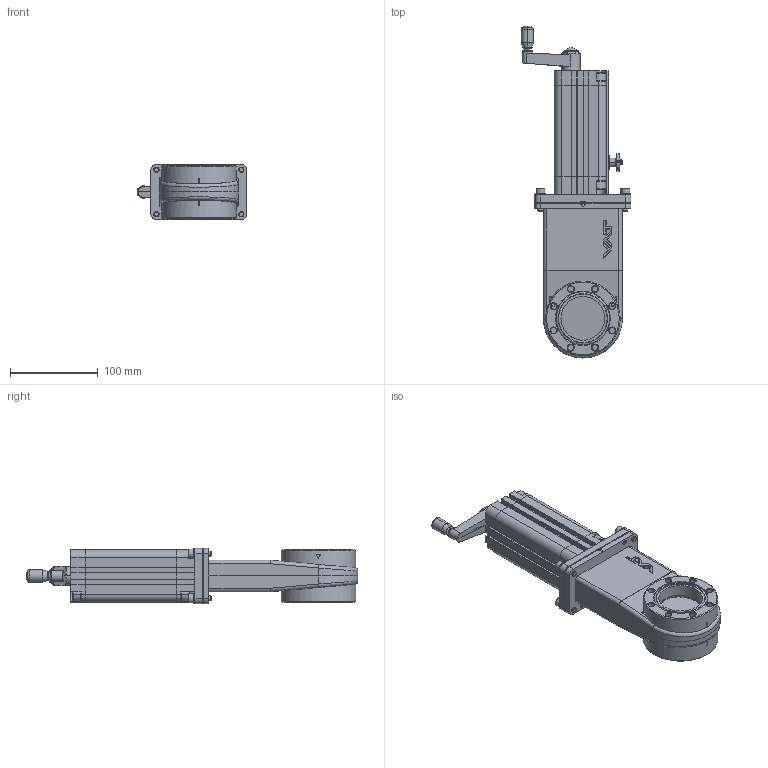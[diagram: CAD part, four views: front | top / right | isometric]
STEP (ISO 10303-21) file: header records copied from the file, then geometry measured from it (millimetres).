
FILE_DESCRIPTION(/* description */ (''),/* implementation_level */ '2;1');
FILE_NAME(/* name */ '1081042410_203.stp',/* time_stamp */ '2017-10-17T08:11:05+02:00',/* author */ (''),/* organization */ (''),/* preprocessor_version */ 'ST-DEVELOPER v16',/* originating_system */ 'SIEMENS PLM Software NX 11.0',/* authorisation */ '');
FILE_SCHEMA (('AP203_CONFIGURATION_CONTROLLED_3D_DESIGN_OF_MECHANICAL_PARTS_AND_ASSEMBLIES_MIM_LF { 1 0 10303 403 2 1 2}'));
Length unit declared in the file: millimetre
Products named in the file (23): 350432.7_29860ID; 350432.7_29863ID; 350540.2_29862ID; 716165; 716165_29841ID; N-6092-118.1; 356291.4; 259597.1; 260722.6; 260826.1; 301646.1; n-6195-408; 259432.1; 332680.2; 401446; 350553.3; 401443; 218189; n-6134-408; 350482.2; 351438.6; 716133; 770333
Assembly tree (40 placements, depth 4):
  770333
    350482.2
    n-6134-408  x8
    218189  x8
    716133
      351438.6
        350540.2_29862ID
        350432.7_29863ID
        350432.7_29860ID
      716165_29841ID
      716165
    401443
    350553.3
    401446
    332680.2
    259432.1
    n-6195-408
    301646.1
    260826.1
    260722.6
    259597.1  x4
    356291.4
    N-6092-118.1  x2
Bounding box: 125.25 x 379.21 x 63 mm (x, y, z)
Volume: 602905.7 mm3; surface area: 277818 mm2
Topology: 56 solids, 56 shells, 1391 faces, 3573 edges, 2349 vertices
Faces by surface type: plane 757, cylinder 371, revolution 90, cone 89, extrusion 44, bspline 24, sphere 12, torus 4
Full cylindrical faces by diameter (mm): 2.2 x1, 3.17 x1, 4 x2, 4.96 x8, 4.976 x2, 4.985 x1, 5 x16, 5.2 x2, 5.22 x4, 5.3 x1, 6 x16, 6.4 x8, 6.5 x11, 6.8 x16, 8.4 x4, 10 x8, 11 x10, 11.5 x4, 14 x1, 15 x1, 15.2 x1, 16 x1, 16.2 x1, 22 x1, 23 x1, 25.345 x1, 30 x1, 30.011 x1, 40 x2, 50.1 x2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
Entity records: 38174 total; most frequent: CARTESIAN_POINT 8292, ORIENTED_EDGE 5338, DIRECTION 5108, EDGE_CURVE 2669, VERTEX_POINT 1876, AXIS2_PLACEMENT_3D 1771, VECTOR 1518, LINE 1474
